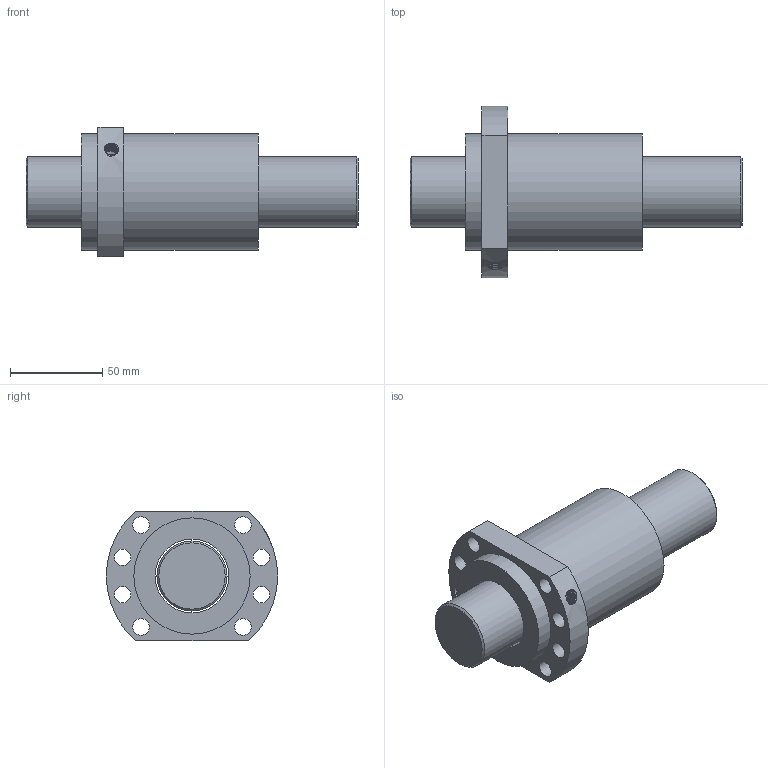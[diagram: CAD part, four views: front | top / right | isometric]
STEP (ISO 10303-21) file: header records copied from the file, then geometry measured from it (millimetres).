
FILE_DESCRIPTION(/* description */ ('Unknown','CAx-IF Rec.Pracs.---Representation and Presentation of Product Manufacturing Information (PMI)---4.0---2014-10-13','CAx-IF Rec.Pracs.---3D Tessellated Geometry---0.4---2014-09-14','2;1'),/* implementation_level */ '2;1');
FILE_NAME(/* name */ 'SFA4040-1.8',/* time_stamp */ '2020-12-08T11:37:21+08:00',/* author */ ('Unknown'),/* organization */ ('Unknown'),/* preprocessor_version */ 'ST-DEVELOPER v16.7',/* originating_system */ 'Solid Edge',/* authorisation */ 'Unknown');
FILE_SCHEMA (('AP242_MANAGED_MODEL_BASED_3D_ENGINEERING_MIM_LF { 1 0 10303 442 1 1 4 }'));
Length unit declared in the file: millimetre
Products named in the file (1): SFA4040-1.8
Bounding box: 180 x 93 x 70 mm (x, y, z)
Volume: 412868.4 mm3; surface area: 67624.8 mm2
Topology: 2 solids, 2 shells, 32 faces, 76 edges, 50 vertices
Faces by surface type: cylinder 18, plane 9, cone 3, bspline 2
Full cylindrical faces by diameter (mm): 4 x1, 6.917 x1, 9 x8, 38 x1, 40 x1, 63 x2
Entity records: 2736 total; most frequent: CARTESIAN_POINT 1976, DIRECTION 146, ORIENTED_EDGE 108, EDGE_LOOP 71, FACE_BOUND 71, AXIS2_PLACEMENT_3D 70, EDGE_CURVE 54, VERTEX_POINT 45
